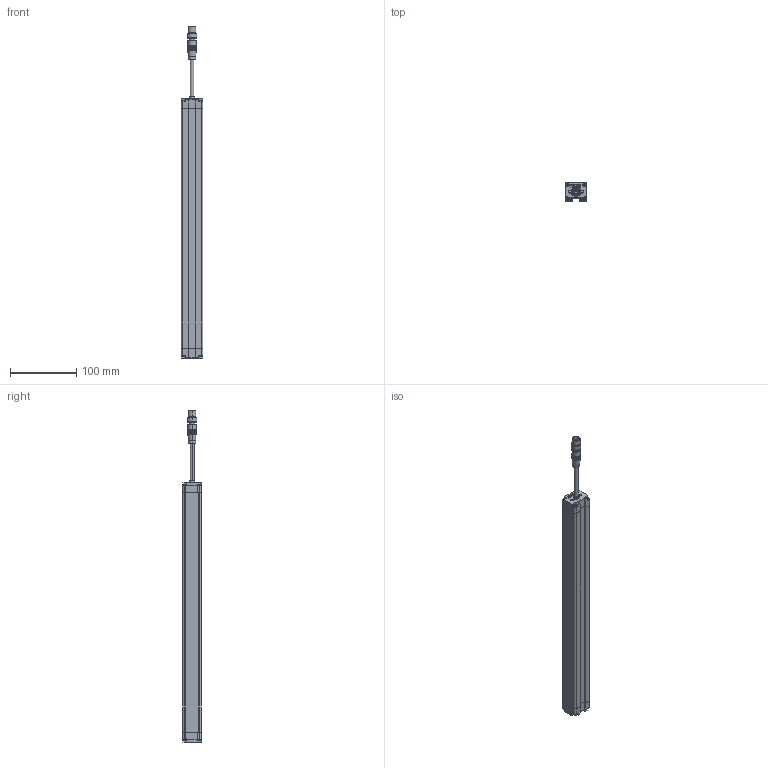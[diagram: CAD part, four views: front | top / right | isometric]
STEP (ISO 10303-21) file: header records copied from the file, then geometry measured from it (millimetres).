
FILE_DESCRIPTION((''),'2;1');
FILE_NAME('SMT1-CGQ_ASM','2025-08-08T08:23:22',('Administrator'),(''),'CREO PARAMETRIC BY PTC INC, 2016510','CREO PARAMETRIC BY PTC INC, 2016510','');
FILE_SCHEMA(('CONFIG_CONTROL_DESIGN'));
Length unit declared in the file: millimetre
Products named in the file (7): SMT1-XINGCAI-V1; SMT1-SDG-V1; SMT1-XDG-V1; M12-CHATOU; ST3X18; CT4-LVGUANGBAN; SMT1-CGQ_ASM
Assembly tree (13 placements, depth 2):
  SMT1-CGQ_ASM
    SMT1-XINGCAI-V1
    SMT1-SDG-V1
    SMT1-XDG-V1
    M12-CHATOU
    ST3X18  x8
    CT4-LVGUANGBAN
Bounding box: 33 x 28.02 x 499.5 mm (x, y, z)
Volume: 307407.4 mm3; surface area: 103404.3 mm2
Topology: 13 solids, 13 shells, 712 faces, 1868 edges, 1200 vertices
Faces by surface type: plane 382, cylinder 184, extrusion 86, sphere 32, cone 20, bspline 8
Entity records: 18128 total; most frequent: CARTESIAN_POINT 4347, ORIENTED_EDGE 2916, DIRECTION 2580, EDGE_CURVE 1458, VECTOR 1036, VERTEX_POINT 955, LINE 950, AXIS2_PLACEMENT_3D 772
